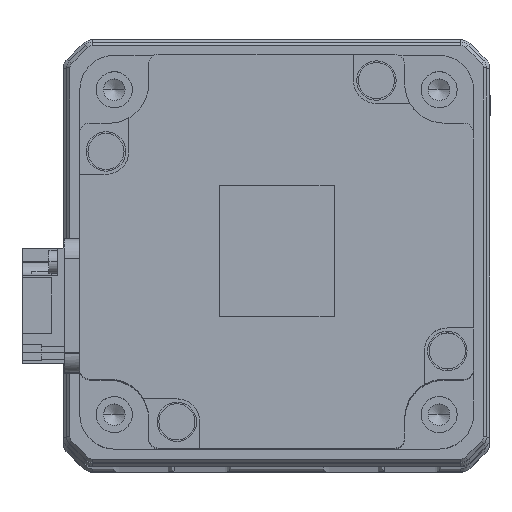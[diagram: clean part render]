
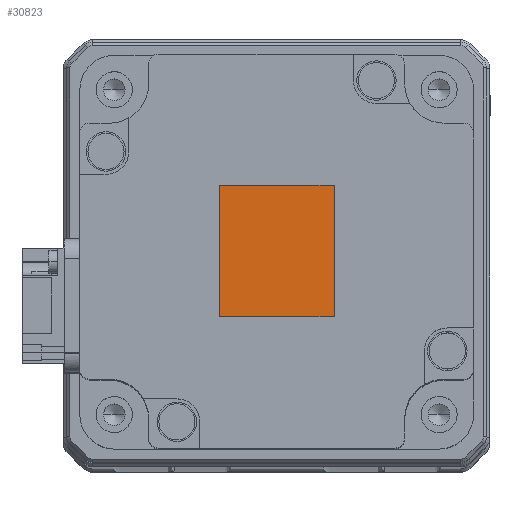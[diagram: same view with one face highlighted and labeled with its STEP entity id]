
A CAD part, top view. The second image highlights one B-rep face of the part: STEP entity #30823.
In plain terms, the highlighted planar face has unit normal (0, 0, 1) as drawn and (0, 0, -1) by its records, which use the part's own axes.
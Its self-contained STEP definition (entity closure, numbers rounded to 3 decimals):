
#95 = DIRECTION ( 'NONE',  ( -1., 0., 0. ) ) ;
#1827 = DIRECTION ( 'NONE',  ( 0., 1., 0. ) ) ;
#4432 = CARTESIAN_POINT ( 'NONE',  ( -10., 8.75, -98.6 ) ) ;
#5355 = VERTEX_POINT ( 'NONE', #29166 ) ;
#5545 = EDGE_CURVE ( 'NONE', #5355, #33230, #9932, .T. ) ;
#6014 = AXIS2_PLACEMENT_3D ( 'NONE', #31101, #15576, #95 ) ;
#6884 = DIRECTION ( 'NONE',  ( -1., 0., 0. ) ) ;
#7066 = FACE_OUTER_BOUND ( 'NONE', #8312, .T. ) ;
#7911 = VECTOR ( 'NONE', #33346, 1000. ) ;
#8312 = EDGE_LOOP ( 'NONE', ( #33521, #20605, #23265, #21378 ) ) ;
#9932 = LINE ( 'NONE', #24918, #23588 ) ;
#10350 = LINE ( 'NONE', #25074, #24030 ) ;
#11715 = CARTESIAN_POINT ( 'NONE',  ( 10., 8.75, -98.6 ) ) ;
#12230 = DIRECTION ( 'NONE',  ( 0., -1., 0. ) ) ;
#12985 = EDGE_CURVE ( 'NONE', #33230, #20777, #21006, .T. ) ;
#13173 = LINE ( 'NONE', #20307, #7911 ) ;
#15437 = EDGE_CURVE ( 'NONE', #17999, #5355, #10350, .T. ) ;
#15472 = PLANE ( 'NONE',  #6014 ) ;
#15576 = DIRECTION ( 'NONE',  ( 0., 0., -1. ) ) ;
#17999 = VERTEX_POINT ( 'NONE', #11715 ) ;
#19285 = CARTESIAN_POINT ( 'NONE',  ( -10., 8.75, -98.6 ) ) ;
#20307 = CARTESIAN_POINT ( 'NONE',  ( 10., 8.75, -98.6 ) ) ;
#20605 = ORIENTED_EDGE ( 'NONE', *, *, #29296, .T. ) ;
#20777 = VERTEX_POINT ( 'NONE', #19285 ) ;
#21006 = LINE ( 'NONE', #4432, #27125 ) ;
#21378 = ORIENTED_EDGE ( 'NONE', *, *, #5545, .T. ) ;
#23265 = ORIENTED_EDGE ( 'NONE', *, *, #15437, .T. ) ;
#23588 = VECTOR ( 'NONE', #6884, 1000. ) ;
#24030 = VECTOR ( 'NONE', #12230, 1000. ) ;
#24918 = CARTESIAN_POINT ( 'NONE',  ( 10., -8.75, -98.6 ) ) ;
#25074 = CARTESIAN_POINT ( 'NONE',  ( 10., 8.75, -98.6 ) ) ;
#27125 = VECTOR ( 'NONE', #1827, 1000. ) ;
#29166 = CARTESIAN_POINT ( 'NONE',  ( 10., -8.75, -98.6 ) ) ;
#29214 = CARTESIAN_POINT ( 'NONE',  ( -10., -8.75, -98.6 ) ) ;
#29296 = EDGE_CURVE ( 'NONE', #20777, #17999, #13173, .T. ) ;
#30823 = ADVANCED_FACE ( 'NONE', ( #7066 ), #15472, .T. ) ;
#31101 = CARTESIAN_POINT ( 'NONE',  ( 10., -8.75, -98.6 ) ) ;
#33230 = VERTEX_POINT ( 'NONE', #29214 ) ;
#33346 = DIRECTION ( 'NONE',  ( 1., 0., 0. ) ) ;
#33521 = ORIENTED_EDGE ( 'NONE', *, *, #12985, .T. ) ;
